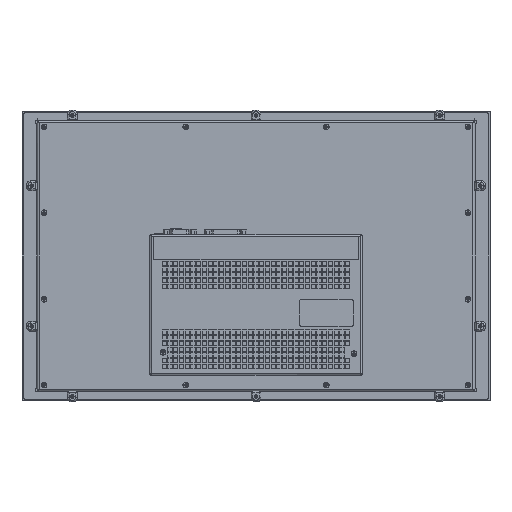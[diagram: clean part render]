
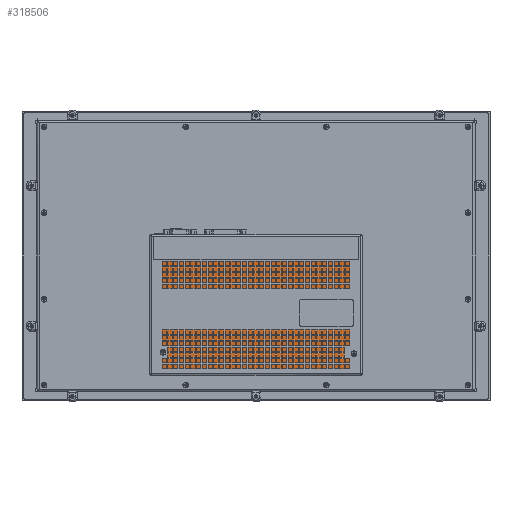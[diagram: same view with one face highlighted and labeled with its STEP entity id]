
A CAD part, front view. The second image highlights one B-rep face of the part: STEP entity #318506.
In plain terms, the highlighted planar face has unit normal (0, -1, 0) as drawn and (0, 0, 1) by its records, which use the part's own axes.
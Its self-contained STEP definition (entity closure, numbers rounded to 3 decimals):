
#17617 = FACE_OUTER_BOUND ( 'NONE', #238631, .T. ) ;
#17900 = EDGE_CURVE ( 'NONE', #32699, #115056, #236334, .T. ) ;
#19278 = CARTESIAN_POINT ( 'NONE',  ( 95.07, -1.129, 27. ) ) ;
#27739 = DIRECTION ( 'NONE',  ( -1., 0., 0. ) ) ;
#32699 = VERTEX_POINT ( 'NONE', #252313 ) ;
#32823 = VECTOR ( 'NONE', #27739, 1000. ) ;
#34913 = EDGE_CURVE ( 'NONE', #235780, #32699, #296330, .T. ) ;
#42296 = LINE ( 'NONE', #278312, #240959 ) ;
#76227 = EDGE_CURVE ( 'NONE', #151458, #235780, #42296, .T. ) ;
#77692 = CARTESIAN_POINT ( 'NONE',  ( 95.07, 126.271, 27. ) ) ;
#107128 = ORIENTED_EDGE ( 'NONE', *, *, #34913, .T. ) ;
#108309 = LINE ( 'NONE', #77692, #32823 ) ;
#112464 = ORIENTED_EDGE ( 'NONE', *, *, #153426, .T. ) ;
#115056 = VERTEX_POINT ( 'NONE', #135467 ) ;
#129831 = PLANE ( 'NONE',  #160279 ) ;
#131114 = CARTESIAN_POINT ( 'NONE',  ( -1.88, -1.129, 27. ) ) ;
#135467 = CARTESIAN_POINT ( 'NONE',  ( 192.02, 126.271, 27. ) ) ;
#149950 = ORIENTED_EDGE ( 'NONE', *, *, #76227, .T. ) ;
#151458 = VERTEX_POINT ( 'NONE', #266702 ) ;
#153426 = EDGE_CURVE ( 'NONE', #115056, #151458, #108309, .T. ) ;
#155288 = DIRECTION ( 'NONE',  ( 0., 0., 1. ) ) ;
#160279 = AXIS2_PLACEMENT_3D ( 'NONE', #307449, #155288, #305269 ) ;
#167933 = DIRECTION ( 'NONE',  ( 1., 0., 0. ) ) ;
#203713 = CARTESIAN_POINT ( 'NONE',  ( 192.02, 62.571, 27. ) ) ;
#228311 = DIRECTION ( 'NONE',  ( 0., -1., 0. ) ) ;
#228688 = VECTOR ( 'NONE', #167933, 1000. ) ;
#235780 = VERTEX_POINT ( 'NONE', #131114 ) ;
#236334 = LINE ( 'NONE', #203713, #327891 ) ;
#238631 = EDGE_LOOP ( 'NONE', ( #149950, #107128, #279867, #112464 ) ) ;
#240959 = VECTOR ( 'NONE', #228311, 1000. ) ;
#252313 = CARTESIAN_POINT ( 'NONE',  ( 192.02, -1.129, 27. ) ) ;
#266702 = CARTESIAN_POINT ( 'NONE',  ( -1.88, 126.271, 27. ) ) ;
#278312 = CARTESIAN_POINT ( 'NONE',  ( -1.88, 62.571, 27. ) ) ;
#279197 = DIRECTION ( 'NONE',  ( 0., 1., 0. ) ) ;
#279867 = ORIENTED_EDGE ( 'NONE', *, *, #17900, .T. ) ;
#296330 = LINE ( 'NONE', #19278, #228688 ) ;
#305269 = DIRECTION ( 'NONE',  ( 1., 0., 0. ) ) ;
#307449 = CARTESIAN_POINT ( 'NONE',  ( 95.07, 62.571, 27. ) ) ;
#318506 = ADVANCED_FACE ( 'NONE', ( #17617 ), #129831, .T. ) ;
#327891 = VECTOR ( 'NONE', #279197, 1000. ) ;
